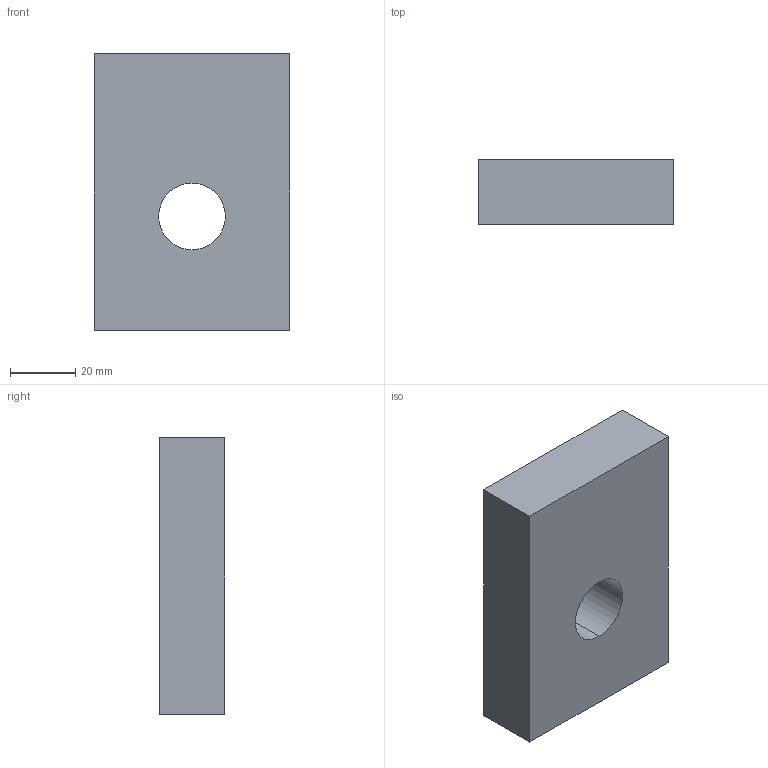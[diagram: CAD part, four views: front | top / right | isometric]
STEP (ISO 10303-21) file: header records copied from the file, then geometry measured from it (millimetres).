
FILE_DESCRIPTION (( 'STEP AP203' ), '1' );
FILE_NAME ('Druckplatte_110420.STEP', '2021-03-16T06:25:31', ( '' ), ( '' ), 'SwSTEP 2.0', 'SolidWorks 2013', '' );
FILE_SCHEMA (( 'CONFIG_CONTROL_DESIGN' ));
Length unit declared in the file: millimetre
Products named in the file (1): Druckplatte_110420
Bounding box: 60 x 20 x 85 mm (x, y, z)
Volume: 95398.7 mm3; surface area: 16627.9 mm2
Topology: 1 solids, 1 shells, 8 faces, 18 edges, 12 vertices
Faces by surface type: plane 6, cylinder 2
Entity records: 309 total; most frequent: DIRECTION 40, CARTESIAN_POINT 39, ORIENTED_EDGE 36, EDGE_CURVE 18, VECTOR 14, LINE 14, AXIS2_PLACEMENT_3D 13, VERTEX_POINT 12
